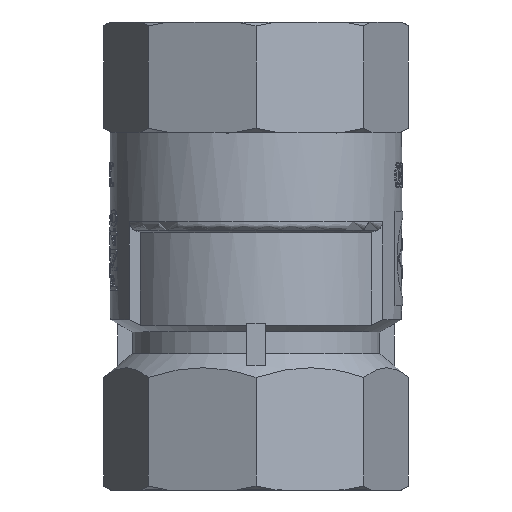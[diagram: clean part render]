
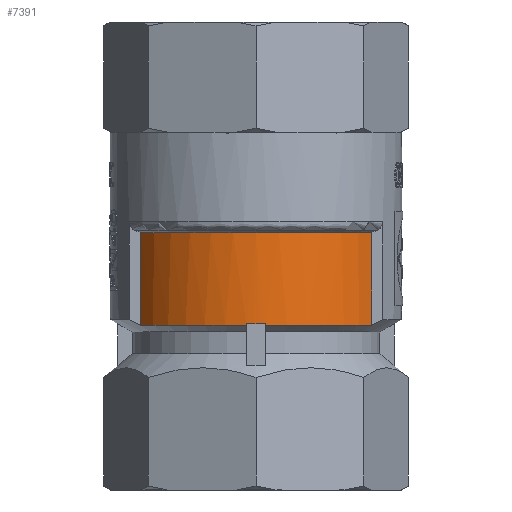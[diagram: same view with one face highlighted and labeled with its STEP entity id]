
A CAD part, front view. The second image highlights one B-rep face of the part: STEP entity #7391.
In plain terms, the highlighted cylindrical face has radius 14.25 mm (diameter 28.5 mm), a partial arc.
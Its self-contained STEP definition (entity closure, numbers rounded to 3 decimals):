
#593=CIRCLE('',#7825,14.25);
#607=CIRCLE('',#7850,14.25);
#625=CIRCLE('',#7929,14.25);
#626=CIRCLE('',#7930,14.25);
#698=CYLINDRICAL_SURFACE('',#7928,14.25);
#1076=FACE_OUTER_BOUND('',#1530,.T.);
#1530=EDGE_LOOP('',(#6645,#6646,#6647,#6648,#6649,#6650));
#2056=LINE('',#19607,#2577);
#2057=LINE('',#19625,#2578);
#2577=VECTOR('',#9410,10.);
#2578=VECTOR('',#9419,10.);
#3446=VERTEX_POINT('',#19097);
#3451=VERTEX_POINT('',#19115);
#3480=VERTEX_POINT('',#19219);
#3522=VERTEX_POINT('',#19605);
#3523=VERTEX_POINT('',#19606);
#3525=VERTEX_POINT('',#19624);
#4445=EDGE_CURVE('',#3451,#3446,#593,.T.);
#4484=EDGE_CURVE('',#3446,#3480,#607,.T.);
#4588=EDGE_CURVE('',#3522,#3523,#2056,.T.);
#4592=EDGE_CURVE('',#3480,#3525,#2057,.T.);
#4595=EDGE_CURVE('',#3523,#3451,#625,.T.);
#4596=EDGE_CURVE('',#3522,#3525,#626,.T.);
#6645=ORIENTED_EDGE('',*,*,#4588,.T.);
#6646=ORIENTED_EDGE('',*,*,#4595,.T.);
#6647=ORIENTED_EDGE('',*,*,#4445,.T.);
#6648=ORIENTED_EDGE('',*,*,#4484,.T.);
#6649=ORIENTED_EDGE('',*,*,#4592,.T.);
#6650=ORIENTED_EDGE('',*,*,#4596,.F.);
#7391=ADVANCED_FACE('',(#1076),#698,.T.);
#7825=AXIS2_PLACEMENT_3D('',#19123,#9182,#9183);
#7850=AXIS2_PLACEMENT_3D('',#19223,#9246,#9247);
#7928=AXIS2_PLACEMENT_3D('',#19636,#9422,#9423);
#7929=AXIS2_PLACEMENT_3D('',#19637,#9424,#9425);
#7930=AXIS2_PLACEMENT_3D('',#19638,#9426,#9427);
#9182=DIRECTION('center_axis',(0.,0.,1.));
#9183=DIRECTION('ref_axis',(1.,0.,0.));
#9246=DIRECTION('center_axis',(0.,0.,1.));
#9247=DIRECTION('ref_axis',(1.,0.,0.));
#9410=DIRECTION('',(0.,0.,-1.));
#9419=DIRECTION('',(0.,0.,1.));
#9422=DIRECTION('center_axis',(0.,0.,1.));
#9423=DIRECTION('ref_axis',(0.,-1.,0.));
#9424=DIRECTION('center_axis',(0.,0.,1.));
#9425=DIRECTION('ref_axis',(1.,0.,0.));
#9426=DIRECTION('center_axis',(0.,0.,1.));
#9427=DIRECTION('ref_axis',(1.,0.,0.));
#19097=CARTESIAN_POINT('',(1.,-14.215,-7.869));
#19115=CARTESIAN_POINT('',(-1.,-14.215,-7.869));
#19123=CARTESIAN_POINT('Origin',(0.,0.,-7.869));
#19219=CARTESIAN_POINT('',(12.117,-7.5,-7.869));
#19223=CARTESIAN_POINT('Origin',(0.,0.,-7.869));
#19605=CARTESIAN_POINT('',(-12.117,-7.5,1.787));
#19606=CARTESIAN_POINT('',(-12.117,-7.5,-7.869));
#19607=CARTESIAN_POINT('',(-12.117,-7.5,-3.041));
#19624=CARTESIAN_POINT('',(12.117,-7.5,1.787));
#19625=CARTESIAN_POINT('',(12.117,-7.5,-3.041));
#19636=CARTESIAN_POINT('Origin',(0.,0.,-3.041));
#19637=CARTESIAN_POINT('Origin',(0.,0.,-7.869));
#19638=CARTESIAN_POINT('Origin',(0.,0.,1.787));
